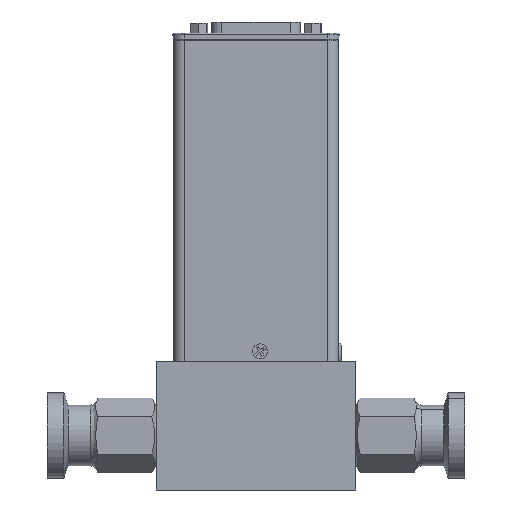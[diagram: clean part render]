
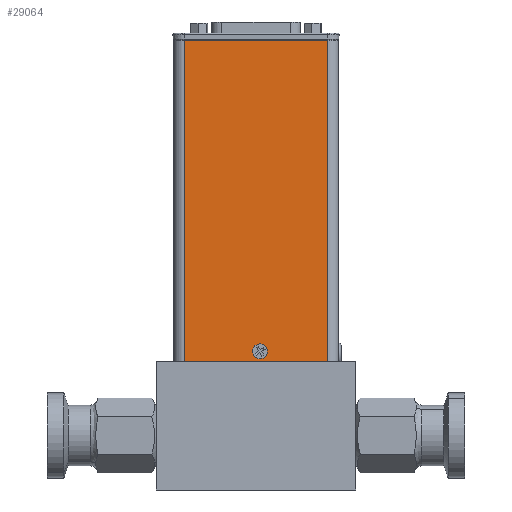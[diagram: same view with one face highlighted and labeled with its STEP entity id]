
A CAD part, front view. The second image highlights one B-rep face of the part: STEP entity #29064.
In plain terms, the highlighted planar face has unit normal (0, -1, 0).
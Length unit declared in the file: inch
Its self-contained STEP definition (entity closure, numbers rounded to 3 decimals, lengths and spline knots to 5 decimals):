
#2590 = ORIENTED_EDGE ( 'NONE', *, *, #48066, .T. ) ;
#2708 = LINE ( 'NONE', #22990, #38136 ) ;
#7068 = FACE_OUTER_BOUND ( 'NONE', #38999, .T. ) ;
#8043 = DIRECTION ( 'NONE',  ( 0., 0., -1. ) ) ;
#11011 = CARTESIAN_POINT ( 'NONE',  ( 1.07761, 0.008, 1.6661 ) ) ;
#14099 = LINE ( 'NONE', #59626, #25562 ) ;
#14154 = EDGE_LOOP ( 'NONE', ( #37600, #55559 ) ) ;
#14977 = CIRCLE ( 'NONE', #16064, 0.06299 ) ;
#15747 = DIRECTION ( 'NONE',  ( 0., -1., 0. ) ) ;
#15748 = ORIENTED_EDGE ( 'NONE', *, *, #30359, .T. ) ;
#16064 = AXIS2_PLACEMENT_3D ( 'NONE', #61098, #50161, #25207 ) ;
#18036 = DIRECTION ( 'NONE',  ( 1., 0., 0. ) ) ;
#19491 = ORIENTED_EDGE ( 'NONE', *, *, #40398, .T. ) ;
#21039 = DIRECTION ( 'NONE',  ( 0., 0., -1. ) ) ;
#21448 = CIRCLE ( 'NONE', #43766, 0.06299 ) ;
#22990 = CARTESIAN_POINT ( 'NONE',  ( 0.20236, 0.008, 1.48511 ) ) ;
#24003 = DIRECTION ( 'NONE',  ( 0., 0., 1. ) ) ;
#25207 = DIRECTION ( 'NONE',  ( 0., 0., 1. ) ) ;
#25562 = VECTOR ( 'NONE', #35682, 39.37008 ) ;
#26713 = FACE_BOUND ( 'NONE', #14154, .T. ) ;
#27332 = LINE ( 'NONE', #46620, #32781 ) ;
#27352 = PLANE ( 'NONE',  #48903 ) ;
#29064 = ADVANCED_FACE ( 'NONE', ( #7068, #26713 ), #27352, .T. ) ;
#30359 = EDGE_CURVE ( 'NONE', #46639, #40952, #53613, .T. ) ;
#30692 = EDGE_CURVE ( 'NONE', #48100, #43942, #14977, .T. ) ;
#31339 = DIRECTION ( 'NONE',  ( 0., 0., 1. ) ) ;
#32506 = ORIENTED_EDGE ( 'NONE', *, *, #60856, .T. ) ;
#32781 = VECTOR ( 'NONE', #31339, 39.37008 ) ;
#34405 = VERTEX_POINT ( 'NONE', #47264 ) ;
#35682 = DIRECTION ( 'NONE',  ( -1., 0., 0. ) ) ;
#37600 = ORIENTED_EDGE ( 'NONE', *, *, #43838, .T. ) ;
#38136 = VECTOR ( 'NONE', #8043, 39.37008 ) ;
#38999 = EDGE_LOOP ( 'NONE', ( #2590, #32506, #15748, #19491 ) ) ;
#40398 = EDGE_CURVE ( 'NONE', #40952, #34405, #27332, .T. ) ;
#40952 = VERTEX_POINT ( 'NONE', #58158 ) ;
#42977 = CARTESIAN_POINT ( 'NONE',  ( 1.03036, 0.008, 1.48511 ) ) ;
#43766 = AXIS2_PLACEMENT_3D ( 'NONE', #54589, #50266, #24003 ) ;
#43838 = EDGE_CURVE ( 'NONE', #43942, #48100, #21448, .T. ) ;
#43942 = VERTEX_POINT ( 'NONE', #11011 ) ;
#46620 = CARTESIAN_POINT ( 'NONE',  ( 1.85836, 0.008, 1.48511 ) ) ;
#46639 = VERTEX_POINT ( 'NONE', #65124 ) ;
#47264 = CARTESIAN_POINT ( 'NONE',  ( 1.85836, 0.008, 5.19964 ) ) ;
#48066 = EDGE_CURVE ( 'NONE', #34405, #65743, #14099, .T. ) ;
#48100 = VERTEX_POINT ( 'NONE', #55275 ) ;
#48903 = AXIS2_PLACEMENT_3D ( 'NONE', #56626, #15747, #21039 ) ;
#50161 = DIRECTION ( 'NONE',  ( 0., 1., 0. ) ) ;
#50266 = DIRECTION ( 'NONE',  ( 0., 1., 0. ) ) ;
#53613 = LINE ( 'NONE', #42977, #56348 ) ;
#54589 = CARTESIAN_POINT ( 'NONE',  ( 1.07761, 0.008, 1.60311 ) ) ;
#54845 = CARTESIAN_POINT ( 'NONE',  ( 0.20236, 0.008, 5.19964 ) ) ;
#55275 = CARTESIAN_POINT ( 'NONE',  ( 1.07761, 0.008, 1.54012 ) ) ;
#55559 = ORIENTED_EDGE ( 'NONE', *, *, #30692, .T. ) ;
#56348 = VECTOR ( 'NONE', #18036, 39.37008 ) ;
#56626 = CARTESIAN_POINT ( 'NONE',  ( 1.03036, 0.008, 1.48511 ) ) ;
#58158 = CARTESIAN_POINT ( 'NONE',  ( 1.85836, 0.008, 1.48511 ) ) ;
#59626 = CARTESIAN_POINT ( 'NONE',  ( 1.03036, 0.008, 5.19964 ) ) ;
#60856 = EDGE_CURVE ( 'NONE', #65743, #46639, #2708, .T. ) ;
#61098 = CARTESIAN_POINT ( 'NONE',  ( 1.07761, 0.008, 1.60311 ) ) ;
#65124 = CARTESIAN_POINT ( 'NONE',  ( 0.20236, 0.008, 1.48511 ) ) ;
#65743 = VERTEX_POINT ( 'NONE', #54845 ) ;
